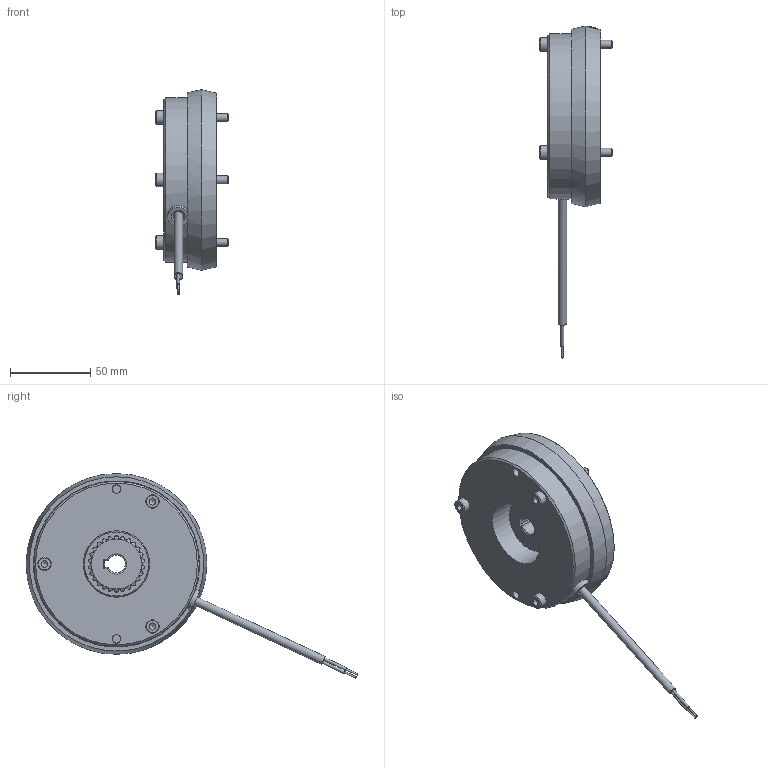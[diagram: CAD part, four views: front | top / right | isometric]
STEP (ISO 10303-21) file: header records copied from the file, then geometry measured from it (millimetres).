
FILE_DESCRIPTION(/* description */ (''),/* implementation_level */ '2;1');
FILE_NAME(/* name */ 'C:\SapWorkDir\Inventor\IP1\ConvertTempPath\5029480_IPT_000.ipt.stp',/* time_stamp */ '2021-04-21T07:23:14+02:00',/* author */ ('WOELK'),/* organization */ (''),/* preprocessor_version */ 'ST-DEVELOPER v17',/* originating_system */ 'Autodesk Inventor 2018',/* authorisation */ '');
FILE_SCHEMA (('AUTOMOTIVE_DESIGN { 1 0 10303 214 3 1 1 }'));
Length unit declared in the file: millimetre
Products named in the file (1): 5029480
Bounding box: 45 x 207.19 x 127.87 mm (x, y, z)
Volume: 231367.1 mm3; surface area: 82691.4 mm2
Topology: 1 solids, 1 shells, 684 faces, 2251 edges, 1501 vertices
Faces by surface type: cylinder 278, plane 216, bspline 102, cone 45, torus 43
Full cylindrical faces by diameter (mm): 1 x2, 1.85 x2, 5 x3, 5.15 x3, 5.3 x6, 5.5 x7, 6.6 x1, 6.7 x1, 7 x1, 7.188 x3, 8 x3, 8.4 x3, 8.5 x3, 10 x3, 40 x1, 41.5 x2, 45 x1, 76.5 x1, 103 x2
Entity records: 31895 total; most frequent: CARTESIAN_POINT 11795, ORIENTED_EDGE 4498, DIRECTION 3680, EDGE_CURVE 2249, VERTEX_POINT 1501, AXIS2_PLACEMENT_3D 1423, CIRCLE 840, LINE 834
